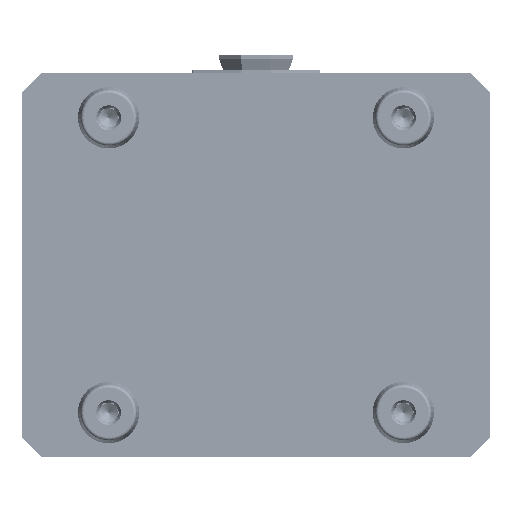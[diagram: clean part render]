
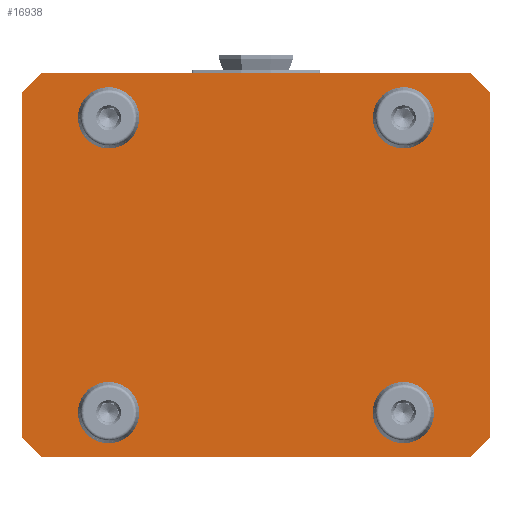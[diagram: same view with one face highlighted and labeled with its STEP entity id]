
A CAD part, front view. The second image highlights one B-rep face of the part: STEP entity #16938.
In plain terms, the highlighted planar face has unit normal (0, -1, 0).
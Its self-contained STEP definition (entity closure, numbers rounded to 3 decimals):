
#973 = EDGE_CURVE ( 'NONE', #57535, #67303, #11675, .T. ) ;
#1091 = ORIENTED_EDGE ( 'NONE', *, *, #53932, .F. ) ;
#1140 = AXIS2_PLACEMENT_3D ( 'NONE', #36862, #3449, #59298 ) ;
#1184 = VERTEX_POINT ( 'NONE', #31924 ) ;
#1618 = ORIENTED_EDGE ( 'NONE', *, *, #23092, .F. ) ;
#1951 = CARTESIAN_POINT ( 'NONE',  ( 48., -25., -39.99 ) ) ;
#1991 = EDGE_CURVE ( 'NONE', #67422, #1184, #46979, .T. ) ;
#2131 = CARTESIAN_POINT ( 'NONE',  ( -76.2, -25., -56.15 ) ) ;
#2180 = CARTESIAN_POINT ( 'NONE',  ( 76.2, -25., 56.15 ) ) ;
#3449 = DIRECTION ( 'NONE',  ( 0., -1., 0. ) ) ;
#3951 = ORIENTED_EDGE ( 'NONE', *, *, #50425, .F. ) ;
#4223 = VERTEX_POINT ( 'NONE', #19422 ) ;
#4408 = ORIENTED_EDGE ( 'NONE', *, *, #29279, .F. ) ;
#4472 = CIRCLE ( 'NONE', #13848, 8.01 ) ;
#4503 = ORIENTED_EDGE ( 'NONE', *, *, #1991, .F. ) ;
#4941 = VERTEX_POINT ( 'NONE', #67791 ) ;
#5289 = CARTESIAN_POINT ( 'NONE',  ( -69.85, -25., 62.5 ) ) ;
#6079 = CARTESIAN_POINT ( 'NONE',  ( 48., -25., 39.99 ) ) ;
#6459 = CARTESIAN_POINT ( 'NONE',  ( 69.85, -25., -62.5 ) ) ;
#6884 = ORIENTED_EDGE ( 'NONE', *, *, #10664, .F. ) ;
#8034 = ORIENTED_EDGE ( 'NONE', *, *, #973, .F. ) ;
#8935 = EDGE_CURVE ( 'NONE', #39644, #4941, #60701, .T. ) ;
#9875 = AXIS2_PLACEMENT_3D ( 'NONE', #14264, #59841, #43307 ) ;
#10227 = ORIENTED_EDGE ( 'NONE', *, *, #8935, .F. ) ;
#10534 = ORIENTED_EDGE ( 'NONE', *, *, #38573, .F. ) ;
#10582 = VECTOR ( 'NONE', #23798, 1000. ) ;
#10664 = EDGE_CURVE ( 'NONE', #4223, #40064, #4472, .T. ) ;
#11026 = DIRECTION ( 'NONE',  ( 0., 0., 1. ) ) ;
#11040 = DIRECTION ( 'NONE',  ( 0., 0., -1. ) ) ;
#11399 = AXIS2_PLACEMENT_3D ( 'NONE', #46348, #13609, #41547 ) ;
#11675 = CIRCLE ( 'NONE', #1140, 8.01 ) ;
#11754 = CARTESIAN_POINT ( 'NONE',  ( -76.2, -25., 56.15 ) ) ;
#12188 = DIRECTION ( 'NONE',  ( 0., -1., 0. ) ) ;
#13077 = EDGE_CURVE ( 'NONE', #23447, #28785, #22710, .T. ) ;
#13609 = DIRECTION ( 'NONE',  ( 0., -1., 0. ) ) ;
#13848 = AXIS2_PLACEMENT_3D ( 'NONE', #57885, #63739, #68226 ) ;
#14264 = CARTESIAN_POINT ( 'NONE',  ( -48., -25., 48. ) ) ;
#15569 = VERTEX_POINT ( 'NONE', #21176 ) ;
#16252 = PLANE ( 'NONE',  #63681 ) ;
#16938 = ADVANCED_FACE ( 'NONE', ( #33506, #66610, #26531, #48977, #65869 ), #16252, .T. ) ;
#17641 = LINE ( 'NONE', #21680, #69258 ) ;
#18027 = ORIENTED_EDGE ( 'NONE', *, *, #69328, .F. ) ;
#19422 = CARTESIAN_POINT ( 'NONE',  ( 48., -25., -56.01 ) ) ;
#19875 = CARTESIAN_POINT ( 'NONE',  ( -48., -25., 39.99 ) ) ;
#21176 = CARTESIAN_POINT ( 'NONE',  ( -76.2, -25., -56.15 ) ) ;
#21680 = CARTESIAN_POINT ( 'NONE',  ( -69.85, -25., -62.5 ) ) ;
#22710 = CIRCLE ( 'NONE', #40366, 8.01 ) ;
#23092 = EDGE_CURVE ( 'NONE', #69351, #60608, #54918, .T. ) ;
#23447 = VERTEX_POINT ( 'NONE', #67593 ) ;
#23798 = DIRECTION ( 'NONE',  ( 0., 0., -1. ) ) ;
#23841 = LINE ( 'NONE', #68733, #69750 ) ;
#23888 = VERTEX_POINT ( 'NONE', #32231 ) ;
#24249 = DIRECTION ( 'NONE',  ( 0., 0., -1. ) ) ;
#24254 = ORIENTED_EDGE ( 'NONE', *, *, #63334, .F. ) ;
#24937 = DIRECTION ( 'NONE',  ( 0., 0., -1. ) ) ;
#26474 = VERTEX_POINT ( 'NONE', #70553 ) ;
#26531 = FACE_BOUND ( 'NONE', #40645, .T. ) ;
#26631 = EDGE_LOOP ( 'NONE', ( #4408, #8034 ) ) ;
#27222 = CARTESIAN_POINT ( 'NONE',  ( -69.85, -25., -62.5 ) ) ;
#27580 = DIRECTION ( 'NONE',  ( -1., 0., 0. ) ) ;
#27807 = VECTOR ( 'NONE', #60723, 1000. ) ;
#28291 = LINE ( 'NONE', #11754, #34652 ) ;
#28598 = EDGE_CURVE ( 'NONE', #1184, #26474, #56831, .T. ) ;
#28710 = DIRECTION ( 'NONE',  ( 0., 0., -1. ) ) ;
#28785 = VERTEX_POINT ( 'NONE', #19875 ) ;
#29279 = EDGE_CURVE ( 'NONE', #67303, #57535, #42717, .T. ) ;
#30068 = CARTESIAN_POINT ( 'NONE',  ( 76.2, -25., -56.15 ) ) ;
#30114 = DIRECTION ( 'NONE',  ( 1., 0., 0. ) ) ;
#30130 = DIRECTION ( 'NONE',  ( 0., -1., 0. ) ) ;
#31378 = CARTESIAN_POINT ( 'NONE',  ( 48., -25., -48. ) ) ;
#31924 = CARTESIAN_POINT ( 'NONE',  ( 76.2, -25., -56.15 ) ) ;
#32231 = CARTESIAN_POINT ( 'NONE',  ( 69.85, -25., 62.5 ) ) ;
#32983 = EDGE_LOOP ( 'NONE', ( #1091, #10534, #59159, #4503, #63760, #3951, #1618, #18027 ) ) ;
#33135 = DIRECTION ( 'NONE',  ( 0., -1., 0. ) ) ;
#33506 = FACE_BOUND ( 'NONE', #26631, .T. ) ;
#34652 = VECTOR ( 'NONE', #11026, 1000. ) ;
#34885 = EDGE_CURVE ( 'NONE', #40064, #4223, #59723, .T. ) ;
#36862 = CARTESIAN_POINT ( 'NONE',  ( -48., -25., -48. ) ) ;
#37581 = CARTESIAN_POINT ( 'NONE',  ( 76.2, -25., 56.15 ) ) ;
#38156 = EDGE_LOOP ( 'NONE', ( #24254, #47618 ) ) ;
#38573 = EDGE_CURVE ( 'NONE', #26474, #56652, #17641, .T. ) ;
#38592 = AXIS2_PLACEMENT_3D ( 'NONE', #31378, #71778, #43854 ) ;
#38663 = CARTESIAN_POINT ( 'NONE',  ( 0., -25., 0. ) ) ;
#39499 = VECTOR ( 'NONE', #50131, 1000. ) ;
#39644 = VERTEX_POINT ( 'NONE', #6079 ) ;
#39689 = CARTESIAN_POINT ( 'NONE',  ( -48., -25., -39.99 ) ) ;
#40064 = VERTEX_POINT ( 'NONE', #1951 ) ;
#40366 = AXIS2_PLACEMENT_3D ( 'NONE', #45623, #33135, #28710 ) ;
#40645 = EDGE_LOOP ( 'NONE', ( #6884, #48604 ) ) ;
#41547 = DIRECTION ( 'NONE',  ( 0., 0., -1. ) ) ;
#42531 = EDGE_LOOP ( 'NONE', ( #10227, #71571 ) ) ;
#42717 = CIRCLE ( 'NONE', #63850, 8.01 ) ;
#43307 = DIRECTION ( 'NONE',  ( 0., 0., -1. ) ) ;
#43470 = LINE ( 'NONE', #37581, #27807 ) ;
#43854 = DIRECTION ( 'NONE',  ( 0., 0., -1. ) ) ;
#43909 = VECTOR ( 'NONE', #68241, 1000. ) ;
#45623 = CARTESIAN_POINT ( 'NONE',  ( -48., -25., 48. ) ) ;
#45915 = CARTESIAN_POINT ( 'NONE',  ( -76.2, -25., 56.15 ) ) ;
#46348 = CARTESIAN_POINT ( 'NONE',  ( 48., -25., 48. ) ) ;
#46979 = LINE ( 'NONE', #30068, #10582 ) ;
#47389 = CARTESIAN_POINT ( 'NONE',  ( -48., -25., -48. ) ) ;
#47618 = ORIENTED_EDGE ( 'NONE', *, *, #13077, .F. ) ;
#48397 = DIRECTION ( 'NONE',  ( -0.707, 0., 0.707 ) ) ;
#48604 = ORIENTED_EDGE ( 'NONE', *, *, #34885, .F. ) ;
#48977 = FACE_BOUND ( 'NONE', #38156, .T. ) ;
#50131 = DIRECTION ( 'NONE',  ( 0.707, 0., 0.707 ) ) ;
#50425 = EDGE_CURVE ( 'NONE', #60608, #23888, #23841, .T. ) ;
#51794 = DIRECTION ( 'NONE',  ( 0., -1., 0. ) ) ;
#53932 = EDGE_CURVE ( 'NONE', #56652, #15569, #65288, .T. ) ;
#54472 = CIRCLE ( 'NONE', #9875, 8.01 ) ;
#54918 = LINE ( 'NONE', #5289, #39499 ) ;
#55503 = CARTESIAN_POINT ( 'NONE',  ( -48., -25., -56.01 ) ) ;
#56652 = VERTEX_POINT ( 'NONE', #27222 ) ;
#56831 = LINE ( 'NONE', #6459, #43909 ) ;
#57023 = CIRCLE ( 'NONE', #66416, 8.01 ) ;
#57535 = VERTEX_POINT ( 'NONE', #39689 ) ;
#57885 = CARTESIAN_POINT ( 'NONE',  ( 48., -25., -48. ) ) ;
#59159 = ORIENTED_EDGE ( 'NONE', *, *, #28598, .F. ) ;
#59298 = DIRECTION ( 'NONE',  ( 0., 0., -1. ) ) ;
#59723 = CIRCLE ( 'NONE', #38592, 8.01 ) ;
#59841 = DIRECTION ( 'NONE',  ( 0., -1., 0. ) ) ;
#60608 = VERTEX_POINT ( 'NONE', #70894 ) ;
#60701 = CIRCLE ( 'NONE', #11399, 8.01 ) ;
#60723 = DIRECTION ( 'NONE',  ( 0.707, 0., -0.707 ) ) ;
#61372 = CARTESIAN_POINT ( 'NONE',  ( 48., -25., 48. ) ) ;
#62175 = VECTOR ( 'NONE', #48397, 1000. ) ;
#63334 = EDGE_CURVE ( 'NONE', #28785, #23447, #54472, .T. ) ;
#63681 = AXIS2_PLACEMENT_3D ( 'NONE', #38663, #12188, #24249 ) ;
#63739 = DIRECTION ( 'NONE',  ( 0., -1., 0. ) ) ;
#63760 = ORIENTED_EDGE ( 'NONE', *, *, #71580, .F. ) ;
#63850 = AXIS2_PLACEMENT_3D ( 'NONE', #47389, #30130, #24937 ) ;
#65288 = LINE ( 'NONE', #2131, #62175 ) ;
#65869 = FACE_OUTER_BOUND ( 'NONE', #32983, .T. ) ;
#66416 = AXIS2_PLACEMENT_3D ( 'NONE', #61372, #51794, #11040 ) ;
#66610 = FACE_BOUND ( 'NONE', #42531, .T. ) ;
#67303 = VERTEX_POINT ( 'NONE', #55503 ) ;
#67422 = VERTEX_POINT ( 'NONE', #2180 ) ;
#67593 = CARTESIAN_POINT ( 'NONE',  ( -48., -25., 56.01 ) ) ;
#67791 = CARTESIAN_POINT ( 'NONE',  ( 48., -25., 56.01 ) ) ;
#68226 = DIRECTION ( 'NONE',  ( 0., 0., -1. ) ) ;
#68241 = DIRECTION ( 'NONE',  ( -0.707, 0., -0.707 ) ) ;
#68733 = CARTESIAN_POINT ( 'NONE',  ( 69.85, -25., 62.5 ) ) ;
#69258 = VECTOR ( 'NONE', #27580, 1000. ) ;
#69328 = EDGE_CURVE ( 'NONE', #15569, #69351, #28291, .T. ) ;
#69351 = VERTEX_POINT ( 'NONE', #45915 ) ;
#69750 = VECTOR ( 'NONE', #30114, 1000. ) ;
#70327 = EDGE_CURVE ( 'NONE', #4941, #39644, #57023, .T. ) ;
#70553 = CARTESIAN_POINT ( 'NONE',  ( 69.85, -25., -62.5 ) ) ;
#70894 = CARTESIAN_POINT ( 'NONE',  ( -69.85, -25., 62.5 ) ) ;
#71571 = ORIENTED_EDGE ( 'NONE', *, *, #70327, .F. ) ;
#71580 = EDGE_CURVE ( 'NONE', #23888, #67422, #43470, .T. ) ;
#71778 = DIRECTION ( 'NONE',  ( 0., -1., 0. ) ) ;
